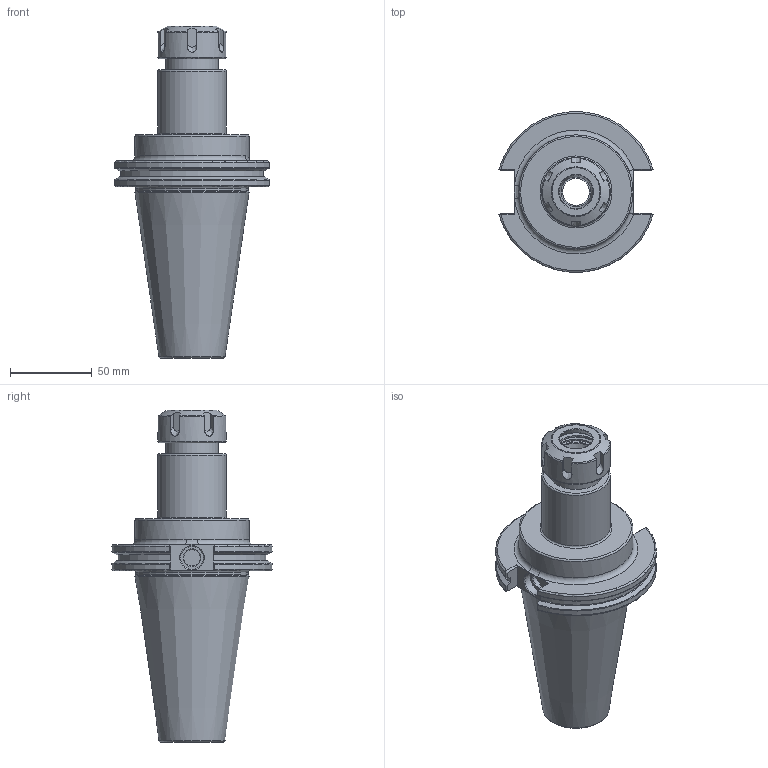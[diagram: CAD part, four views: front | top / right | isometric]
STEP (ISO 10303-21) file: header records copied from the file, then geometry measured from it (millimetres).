
FILE_DESCRIPTION(/* description */ (''),/* implementation_level */ '2;1');
FILE_NAME(/* name */ 'CAT50-ER25-4''''_asm1.prt.stp',/* time_stamp */ '2020-04-11T17:35:29+08:00',/* author */ (''),/* organization */ (''),/* preprocessor_version */ 'ST-DEVELOPER v16',/* originating_system */ 'SIEMENS PLM Software NX 10.0',/* authorisation */ '');
FILE_SCHEMA (('CONFIG_CONTROL_DESIGN'));
Length unit declared in the file: millimetre
Products named in the file (3): CAT50-ER25-4''; ER25UM压帽; CAT50-ER25-4''_asm1
Assembly tree (2 placements, depth 2):
  CAT50-ER25-4''_asm1
    ER25UM压帽
    CAT50-ER25-4''
Bounding box: 94.4 x 98.07 x 203.2 mm (x, y, z)
Volume: 436211.6 mm3; surface area: 64774.4 mm2
Topology: 2 solids, 2 shells, 150 faces, 400 edges, 265 vertices
Faces by surface type: plane 72, torus 27, cylinder 24, cone 19, bspline 8
Full cylindrical faces by diameter (mm): 10 x1, 14 x1, 16.5 x1, 18.3 x1, 20.7 x1, 22.225 x1, 25.7 x1, 26.19 x1, 29 x1, 30.376 x1, 30.5 x1, 32 x1, 32.5 x1, 42 x2, 69 x1, 69.85 x1
Entity records: 5358 total; most frequent: CARTESIAN_POINT 1564, ORIENTED_EDGE 732, DIRECTION 690, EDGE_CURVE 366, AXIS2_PLACEMENT_3D 274, VERTEX_POINT 259, EDGE_LOOP 193, ADVANCED_FACE 150
